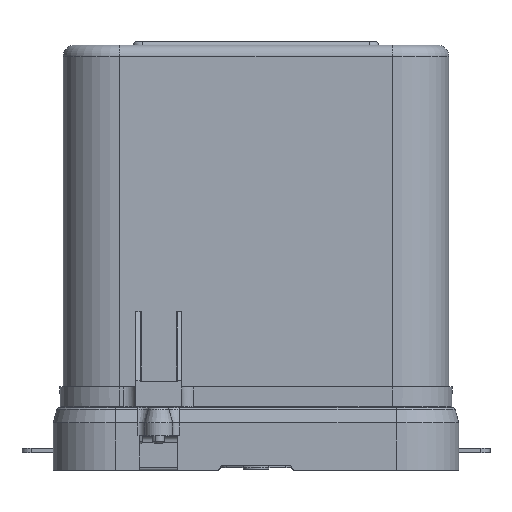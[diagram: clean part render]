
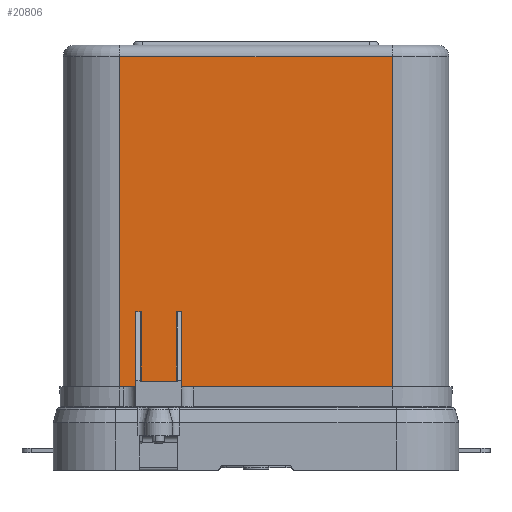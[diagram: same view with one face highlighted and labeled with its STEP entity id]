
A CAD part, front view. The second image highlights one B-rep face of the part: STEP entity #20806.
In plain terms, the highlighted planar face has unit normal (0, -1, 0).
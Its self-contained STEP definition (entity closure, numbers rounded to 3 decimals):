
#20806=ADVANCED_FACE('',(#41615),#41617,.F.);
#41615=FACE_BOUND('',#41616,.T.);
#41616=EDGE_LOOP('',(#54306,#54307,#54308,#54309,#54310,#54311,#54312,#54313,#54314,
#54315,#54316,#54317));
#41617=PLANE('',#41618);
#41618=AXIS2_PLACEMENT_3D('',#41619,#41620,#41621);
#41619=CARTESIAN_POINT('',(28.75,4.25,185.));
#41620=DIRECTION('',(0.,1.,0.));
#41621=DIRECTION('',(0.,-0.,1.));
#54306=ORIENTED_EDGE('',*,*,#60929,.F.);
#54307=ORIENTED_EDGE('',*,*,#60930,.T.);
#54308=ORIENTED_EDGE('',*,*,#60931,.T.);
#54309=ORIENTED_EDGE('',*,*,#60728,.T.);
#54310=ORIENTED_EDGE('',*,*,#60924,.F.);
#54311=ORIENTED_EDGE('',*,*,#60932,.F.);
#54312=ORIENTED_EDGE('',*,*,#60933,.T.);
#54313=ORIENTED_EDGE('',*,*,#60934,.T.);
#54314=ORIENTED_EDGE('',*,*,#60935,.F.);
#54315=ORIENTED_EDGE('',*,*,#60740,.F.);
#54316=ORIENTED_EDGE('',*,*,#60936,.T.);
#54317=ORIENTED_EDGE('',*,*,#60937,.T.);
#60728=EDGE_CURVE('',#70461,#70459,#70462,.T.);
#60740=EDGE_CURVE('',#70481,#70478,#70483,.T.);
#60924=EDGE_CURVE('',#70751,#70459,#70753,.T.);
#60929=EDGE_CURVE('',#70760,#70761,#70762,.T.);
#60930=EDGE_CURVE('',#70760,#70763,#70764,.T.);
#60931=EDGE_CURVE('',#70763,#70461,#70765,.T.);
#60932=EDGE_CURVE('',#70766,#70751,#70767,.T.);
#60933=EDGE_CURVE('',#70766,#70768,#70769,.T.);
#60934=EDGE_CURVE('',#70768,#70770,#70771,.T.);
#60935=EDGE_CURVE('',#70478,#70770,#70772,.T.);
#60936=EDGE_CURVE('',#70481,#70773,#70774,.T.);
#60937=EDGE_CURVE('',#70773,#70761,#70775,.T.);
#70459=VERTEX_POINT('',#104319);
#70461=VERTEX_POINT('',#104323);
#70462=LINE('',#104324,#104325);
#70478=VERTEX_POINT('',#104358);
#70481=VERTEX_POINT('',#104365);
#70483=LINE('',#104369,#104370);
#70751=VERTEX_POINT('',#105036);
#70753=LINE('',#105041,#105042);
#70760=VERTEX_POINT('',#105059);
#70761=VERTEX_POINT('',#105060);
#70762=LINE('',#105061,#105062);
#70763=VERTEX_POINT('',#105064);
#70764=LINE('',#105065,#105066);
#70765=LINE('',#105068,#105069);
#70766=VERTEX_POINT('',#105071);
#70767=LINE('',#105072,#105073);
#70768=VERTEX_POINT('',#105075);
#70769=LINE('',#105076,#105077);
#70770=VERTEX_POINT('',#105079);
#70771=LINE('',#105080,#105081);
#70772=LINE('',#105083,#105084);
#70773=VERTEX_POINT('',#105086);
#70774=LINE('',#105087,#105088);
#70775=LINE('',#105090,#105091);
#104319=CARTESIAN_POINT('',(55.5,4.25,36.));
#104323=CARTESIAN_POINT('',(55.5,4.25,68.5));
#104324=CARTESIAN_POINT('',(55.5,4.25,68.5));
#104325=VECTOR('',#104326,1.);
#104326=DIRECTION('',(0.,0.,-1.));
#104358=CARTESIAN_POINT('',(35.5,4.25,36.));
#104365=CARTESIAN_POINT('',(35.5,4.25,68.5));
#104369=CARTESIAN_POINT('',(35.5,4.25,68.5));
#104370=VECTOR('',#104371,1.);
#104371=DIRECTION('',(0.,0.,-1.));
#105036=CARTESIAN_POINT('',(146.25,4.25,36.));
#105041=CARTESIAN_POINT('',(146.25,4.25,36.));
#105042=VECTOR('',#105043,1.);
#105043=DIRECTION('',(-1.,0.,0.));
#105059=CARTESIAN_POINT('',(53.,4.25,38.5));
#105060=CARTESIAN_POINT('',(38.,4.25,38.5));
#105061=CARTESIAN_POINT('',(53.,4.25,38.5));
#105062=VECTOR('',#105063,1.);
#105063=DIRECTION('',(-1.,0.,0.));
#105064=CARTESIAN_POINT('',(53.,4.25,68.5));
#105065=CARTESIAN_POINT('',(53.,4.25,38.5));
#105066=VECTOR('',#105067,1.);
#105067=DIRECTION('',(0.,0.,1.));
#105068=CARTESIAN_POINT('',(53.,4.25,68.5));
#105069=VECTOR('',#105070,1.);
#105070=DIRECTION('',(1.,0.,0.));
#105071=CARTESIAN_POINT('',(146.25,4.25,178.5));
#105072=CARTESIAN_POINT('',(146.25,4.25,178.5));
#105073=VECTOR('',#105074,1.);
#105074=DIRECTION('',(0.,0.,-1.));
#105075=CARTESIAN_POINT('',(28.75,4.25,178.5));
#105076=CARTESIAN_POINT('',(146.25,4.25,178.5));
#105077=VECTOR('',#105078,1.);
#105078=DIRECTION('',(-1.,0.,0.));
#105079=CARTESIAN_POINT('',(28.75,4.25,36.));
#105080=CARTESIAN_POINT('',(28.75,4.25,178.5));
#105081=VECTOR('',#105082,1.);
#105082=DIRECTION('',(0.,0.,-1.));
#105083=CARTESIAN_POINT('',(35.5,4.25,36.));
#105084=VECTOR('',#105085,1.);
#105085=DIRECTION('',(-1.,0.,0.));
#105086=CARTESIAN_POINT('',(38.,4.25,68.5));
#105087=CARTESIAN_POINT('',(35.5,4.25,68.5));
#105088=VECTOR('',#105089,1.);
#105089=DIRECTION('',(1.,0.,0.));
#105090=CARTESIAN_POINT('',(38.,4.25,68.5));
#105091=VECTOR('',#105092,1.);
#105092=DIRECTION('',(0.,0.,-1.));
